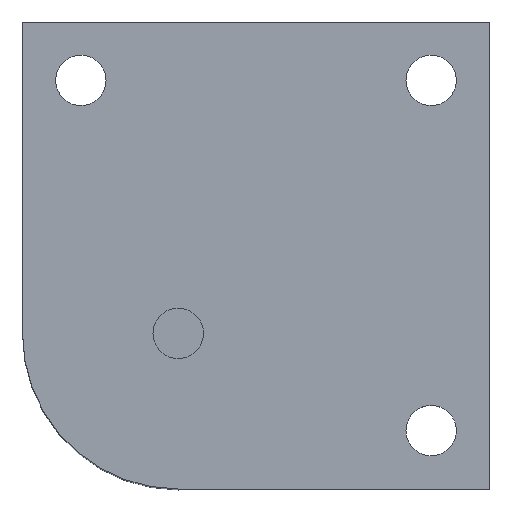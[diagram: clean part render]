
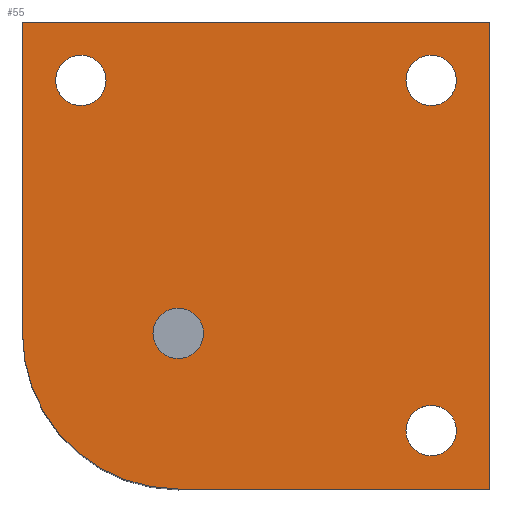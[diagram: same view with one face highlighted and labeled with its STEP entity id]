
A CAD part, top view. The second image highlights one B-rep face of the part: STEP entity #55.
In plain terms, the highlighted planar face has unit normal (0, 0, 1).
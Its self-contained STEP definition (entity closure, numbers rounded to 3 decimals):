
#55 = ADVANCED_FACE( '', ( #114, #115, #116, #117, #118 ), #119, .T. );
#114 = FACE_BOUND( '', #180, .T. );
#115 = FACE_BOUND( '', #181, .T. );
#116 = FACE_BOUND( '', #182, .T. );
#117 = FACE_BOUND( '', #183, .T. );
#118 = FACE_OUTER_BOUND( '', #184, .T. );
#119 = PLANE( '', #185 );
#180 = EDGE_LOOP( '', ( #265 ) );
#181 = EDGE_LOOP( '', ( #266 ) );
#182 = EDGE_LOOP( '', ( #267 ) );
#183 = EDGE_LOOP( '', ( #268 ) );
#184 = EDGE_LOOP( '', ( #269, #270, #271, #272, #273 ) );
#185 = AXIS2_PLACEMENT_3D( '', #274, #275, #276 );
#265 = ORIENTED_EDGE( '', *, *, #333, .F. );
#266 = ORIENTED_EDGE( '', *, *, #348, .F. );
#267 = ORIENTED_EDGE( '', *, *, #350, .F. );
#268 = ORIENTED_EDGE( '', *, *, #351, .F. );
#269 = ORIENTED_EDGE( '', *, *, #343, .T. );
#270 = ORIENTED_EDGE( '', *, *, #352, .T. );
#271 = ORIENTED_EDGE( '', *, *, #338, .T. );
#272 = ORIENTED_EDGE( '', *, *, #353, .T. );
#273 = ORIENTED_EDGE( '', *, *, #327, .T. );
#274 = CARTESIAN_POINT( '', ( -32.5, -32.5, 0. ) );
#275 = DIRECTION( '', ( 0., 0., 1. ) );
#276 = DIRECTION( '', ( 1., 0., 0. ) );
#327 = EDGE_CURVE( '', #370, #371, #372, .T. );
#333 = EDGE_CURVE( '', #381, #381, #382, .T. );
#338 = EDGE_CURVE( '', #388, #389, #390, .T. );
#343 = EDGE_CURVE( '', #371, #397, #398, .T. );
#348 = EDGE_CURVE( '', #405, #405, #406, .T. );
#350 = EDGE_CURVE( '', #408, #408, #409, .T. );
#351 = EDGE_CURVE( '', #410, #410, #411, .T. );
#352 = EDGE_CURVE( '', #397, #388, #412, .T. );
#353 = EDGE_CURVE( '', #389, #370, #413, .T. );
#370 = VERTEX_POINT( '', #432 );
#371 = VERTEX_POINT( '', #433 );
#372 = LINE( '', #434, #435 );
#381 = VERTEX_POINT( '', #447 );
#382 = CIRCLE( '', #448, 3.24 );
#388 = VERTEX_POINT( '', #454 );
#389 = VERTEX_POINT( '', #455 );
#390 = LINE( '', #456, #457 );
#397 = VERTEX_POINT( '', #467 );
#398 = LINE( '', #468, #469 );
#405 = VERTEX_POINT( '', #478 );
#406 = CIRCLE( '', #479, 3.24 );
#408 = VERTEX_POINT( '', #481 );
#409 = CIRCLE( '', #482, 3.24 );
#410 = VERTEX_POINT( '', #483 );
#411 = CIRCLE( '', #484, 3.24 );
#412 = CIRCLE( '', #485, 20. );
#413 = LINE( '', #486, #487 );
#432 = CARTESIAN_POINT( '', ( 7.5, 7.5, 0. ) );
#433 = CARTESIAN_POINT( '', ( -52.5, 7.5, 0. ) );
#434 = CARTESIAN_POINT( '', ( 7.5, 7.5, 0. ) );
#435 = VECTOR( '', #507, 1000. );
#447 = CARTESIAN_POINT( '', ( -41.76, 0., 0. ) );
#448 = AXIS2_PLACEMENT_3D( '', #514, #515, #516 );
#454 = CARTESIAN_POINT( '', ( -32.5, -52.5, 0. ) );
#455 = CARTESIAN_POINT( '', ( 7.5, -52.5, 0. ) );
#456 = CARTESIAN_POINT( '', ( -32.5, -52.5, 0. ) );
#457 = VECTOR( '', #520, 1000. );
#467 = CARTESIAN_POINT( '', ( -52.5, -32.5, 0. ) );
#468 = CARTESIAN_POINT( '', ( -52.5, 7.5, 0. ) );
#469 = VECTOR( '', #524, 1000. );
#478 = CARTESIAN_POINT( '', ( -29.26, -32.5, 0. ) );
#479 = AXIS2_PLACEMENT_3D( '', #530, #531, #532 );
#481 = CARTESIAN_POINT( '', ( 3.24, -45., 0. ) );
#482 = AXIS2_PLACEMENT_3D( '', #533, #534, #535 );
#483 = CARTESIAN_POINT( '', ( 3.24, 0., 0. ) );
#484 = AXIS2_PLACEMENT_3D( '', #536, #537, #538 );
#485 = AXIS2_PLACEMENT_3D( '', #539, #540, #541 );
#486 = CARTESIAN_POINT( '', ( 7.5, -52.5, 0. ) );
#487 = VECTOR( '', #542, 1000. );
#507 = DIRECTION( '', ( -1., 0., 0. ) );
#514 = CARTESIAN_POINT( '', ( -45., 0., 0. ) );
#515 = DIRECTION( '', ( 0., 0., 1. ) );
#516 = DIRECTION( '', ( 1., 0., 0. ) );
#520 = DIRECTION( '', ( 1., 0., 0. ) );
#524 = DIRECTION( '', ( 0., -1., 0. ) );
#530 = CARTESIAN_POINT( '', ( -32.5, -32.5, 0. ) );
#531 = DIRECTION( '', ( 0., 0., 1. ) );
#532 = DIRECTION( '', ( 1., 0., 0. ) );
#533 = CARTESIAN_POINT( '', ( 0., -45., 0. ) );
#534 = DIRECTION( '', ( 0., 0., 1. ) );
#535 = DIRECTION( '', ( 1., 0., 0. ) );
#536 = CARTESIAN_POINT( '', ( 0., 0., 0. ) );
#537 = DIRECTION( '', ( 0., 0., 1. ) );
#538 = DIRECTION( '', ( 1., 0., 0. ) );
#539 = CARTESIAN_POINT( '', ( -32.5, -32.5, 0. ) );
#540 = DIRECTION( '', ( 0., 0., 1. ) );
#541 = DIRECTION( '', ( 1., 0., 0. ) );
#542 = DIRECTION( '', ( 0., 1., 0. ) );
